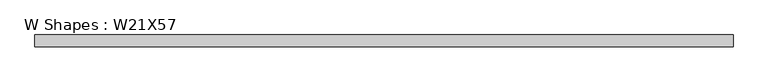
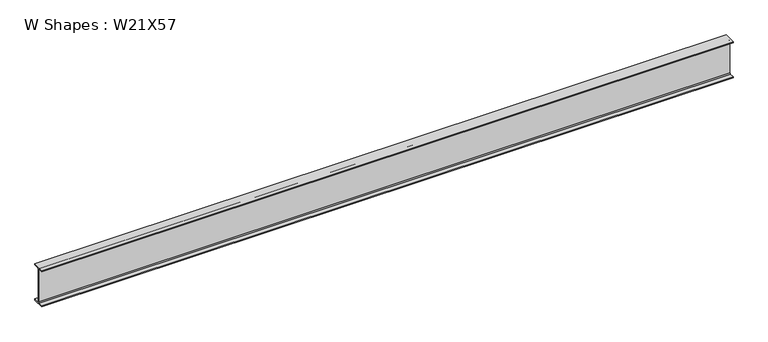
"""IFC4 building model written with IfcOpenShell, lengths in millimetres: beam geometry, W Shapes : W21X57."""

from ifc_helpers import new_model, si_unit, point, frame, frame_2d, origin, place, context, project, spatial, polyline, circle_curve, trimmed, segment, composite_curve, outline, extrude, source, transform, mapped, element, save


def w_shapes_w21x57_af6b2263(model_context):
    return source(origin(), model_context, "Body", "SweptSolid", [
        extrude(outline(composite_curve([segment(polyline([(83.312, -251.46), (83.312, -267.97), (-83.312, -267.97), (-83.312, -251.46), (-17.907, -251.46)]), True, "CONTINUOUS"), segment(trimmed(circle_curve(frame_2d((-17.907, -238.76)), 12.7), [point((-17.907, -251.46))], [point((-5.207, -238.76))], True, "CARTESIAN"), True, "CONTINUOUS"), segment(polyline([(-5.207, -238.76), (-5.207, 238.76)]), True, "CONTINUOUS"), segment(trimmed(circle_curve(frame_2d((-17.907, 238.76)), 12.7), [point((-5.207, 238.76))], [point((-17.907, 251.46))], True, "CARTESIAN"), True, "CONTINUOUS"), segment(polyline([(-17.907, 251.46), (-83.312, 251.46), (-83.312, 267.97), (83.312, 267.97), (83.312, 251.46), (17.907, 251.46)]), True, "CONTINUOUS"), segment(trimmed(circle_curve(frame_2d((17.907, 238.76)), 12.7), [point((17.907, 251.46))], [point((5.207, 238.76))], True, "CARTESIAN"), True, "CONTINUOUS"), segment(polyline([(5.207, 238.76), (5.207, -238.76)]), True, "CONTINUOUS"), segment(trimmed(circle_curve(frame_2d((17.907, -238.76)), 12.7), [point((5.207, -238.76))], [point((17.907, -251.46))], True, "CARTESIAN"), True, "CONTINUOUS"), segment(polyline([(17.907, -251.46), (83.312, -251.46)]), True, "CONTINUOUS")], self_intersect=False)), frame((-4782.55, 0.0, 0.0), z_axis=(1.0, 0.0, 0.0), x_axis=(0.0, 1.0, 0.0)), (0.0, 0.0, 1.0), 9690.1),
    ])


if __name__ == "__main__":
    model = new_model("IFC4")
    model_context = context("Model", 3, world=origin())
    ifc_project = project(units=[si_unit("LENGTHUNIT", "METRE", prefix="MILLI")], contexts=[model_context])
    site = spatial("IfcSite", under=ifc_project)
    building = spatial("IfcBuilding", under=site)
    placement = place(None, origin())
    w_shapes_w21x57_shape = w_shapes_w21x57_af6b2263(model_context)
    element("IfcBeam", 1, ObjectType="W Shapes : W21X57", at=placement, inside=building, context=model_context, shape_type="MappedRepresentation", body=[
        mapped(w_shapes_w21x57_shape, transform((0.0, 0.0, 0.0), x_axis=(1.0, 0.0, 0.0), y_axis=(0.0, 1.0, 0.0), z_axis=(0.0, 0.0, 1.0))),
    ])
    save(model, "model.ifc")
